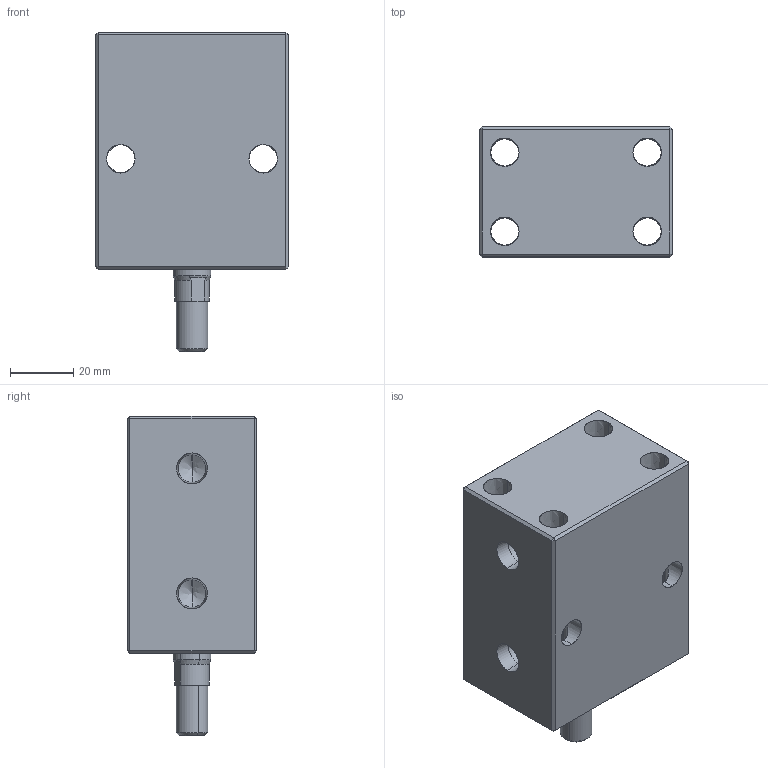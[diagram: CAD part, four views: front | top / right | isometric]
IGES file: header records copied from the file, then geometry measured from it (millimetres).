
Start section: SolidWorks IGES file using analytic representation for surfaces
Global section: file name: E:\ALL-SSVT-BLOCK\IGS MODEL-20BORE\BC04-20-25-M.IGS; native system: SolidWorks 2019; preprocessor: SolidWorks 2019; author: SSVT; date: 210824.084206; units: millimetre
Bounding box: 61 x 41 x 101 mm (x, y, z)
Surface area: 35101.3 mm2 (no closed solid volume)
Topology: 0 solids, 0 shells, 96 faces, 1703 edges, 1699 vertices
Faces by surface type: revolution 61, bspline 35
